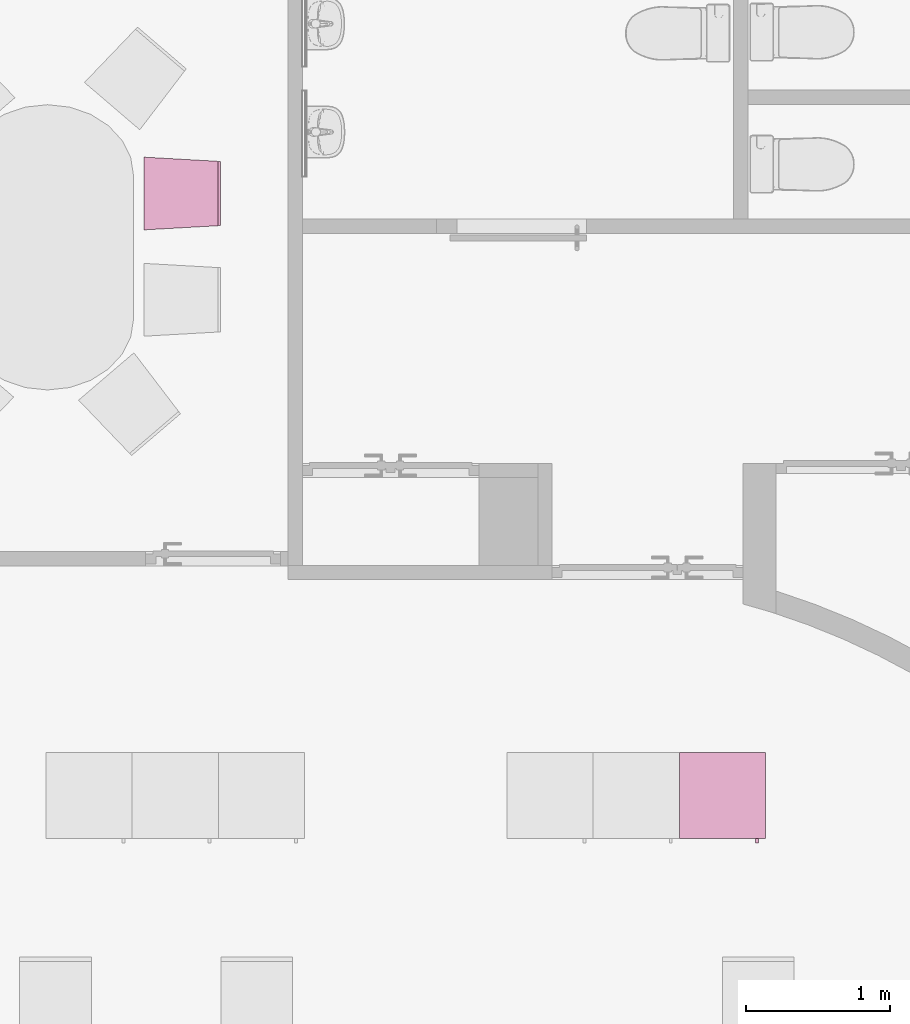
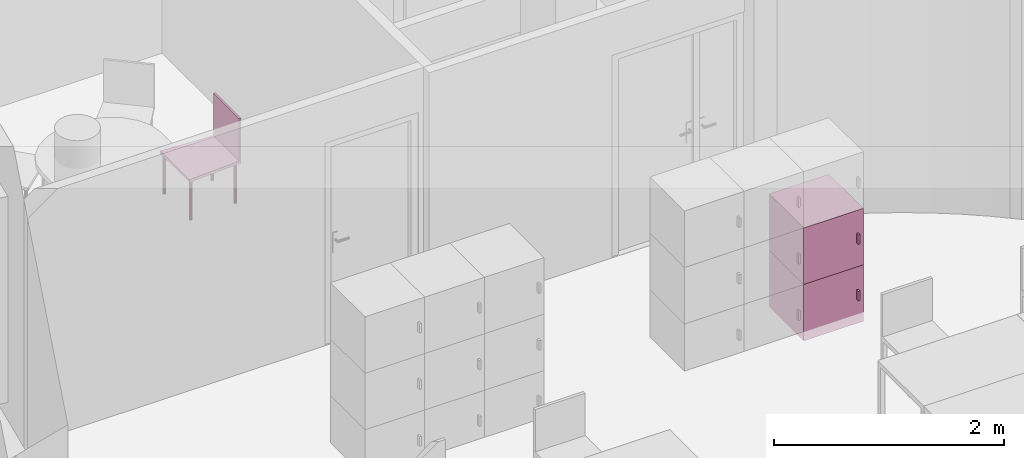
"""IFC4 building model written with IfcOpenShell, lengths in metres."""

from ifc_helpers import new_model, entity, si_unit, converted_unit, derived_unit, frame, origin, place, context, subcontext, project, spatial, faceted_brep, element, save


model = new_model("IFC4")

# Units and contexts
model_context = context("Model", 3, precision=1e-05, world=origin())
body_context = subcontext(model_context, "Body", "Model", "MODEL_VIEW")
ifc_project = project(units=[si_unit("LENGTHUNIT", "METRE"), si_unit("AREAUNIT", "SQUARE_METRE"), si_unit("VOLUMEUNIT", "CUBIC_METRE"), si_unit("MASSUNIT", "GRAM", prefix="KILO"), converted_unit("PLANEANGLEUNIT", "DEGREE", entity("IfcPlaneAngleMeasure", 0.0174532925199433), si_unit("PLANEANGLEUNIT", "RADIAN"), dimensions=[0, 0, 0, 0, 0, 0, 0]), derived_unit("THERMALTRANSMITTANCEUNIT", [(si_unit("POWERUNIT", "WATT"), 1), (si_unit("THERMODYNAMICTEMPERATUREUNIT", "KELVIN"), -1), (si_unit("LENGTHUNIT", "METRE"), -2)]), derived_unit("VOLUMETRICFLOWRATEUNIT", [(si_unit("LENGTHUNIT", "METRE"), 3), (converted_unit("TIMEUNIT", "hour", entity("IfcTimeMeasure", 3600.0), si_unit("TIMEUNIT", "SECOND"), dimensions=[0, 0, 1, 0, 0, 0, 0]), -1), (si_unit("LENGTHUNIT", "METRE"), -1)])], contexts=[model_context])

# Building, storeys
building_placement = place(None, origin())
building = spatial("IfcBuilding", under=ifc_project, at=building_placement, Name="HABITATGE PLURIFAMILIAR", CompositionType="ELEMENT")
storey_1_placement = place(building_placement, frame((0.0, 0.0, 15.28)))
storey_1 = spatial("IfcBuildingStorey", under=building, at=storey_1_placement, Name="PLANTA QUARTA", CompositionType="ELEMENT", Elevation=15.28)
storey_2_placement = place(storey_1_placement, frame((0.0, 0.0, 12.27)))
storey_2 = spatial("IfcBuildingStorey", under=storey_1, at=storey_2_placement, Name="NOU", CompositionType="PARTIAL")

# Furniture
furniture_1_placement = place(storey_2_placement, frame((407.062081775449, 21.5873137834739, -12.37)))
element("IfcFurniture", 1, at=furniture_1_placement, inside=storey_2, Name="Armai 60x60x60_P4", context=body_context, shape_type="Brep", body=[
    faceted_brep([(0.600000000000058, 0.0300000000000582, 0.02), (0.600000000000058, 0.0300000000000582, 0.0), (0.0, 0.0300000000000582, 0.0), (0.0, 0.0300000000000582, 0.02), (0.0, 0.630000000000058, 0.0), (0.0, 0.630000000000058, 0.02), (0.600000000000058, 0.630000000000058, 0.0), (0.600000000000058, 0.630000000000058, 0.02)], [[[0, 1, 2, 3]], [[3, 2, 4, 5]], [[5, 4, 6, 7]], [[7, 6, 1, 0]], [[0, 3, 5, 7]], [[1, 6, 4, 2]]], orient=[[False], [False], [False], [False], [False], [False]]),
    faceted_brep([(0.02, 0.63, 0.58), (0.02, 0.61, 0.58), (0.02, 0.61, 0.02), (0.02, 0.63, 0.02), (0.58, 0.61, 0.02), (0.58, 0.63, 0.02), (0.58, 0.61, 0.58), (0.58, 0.63, 0.58)], [[[0, 1, 2, 3]], [[3, 2, 4, 5]], [[5, 4, 6, 7]], [[7, 6, 1, 0]], [[0, 3, 5, 7]], [[1, 6, 4, 2]]], orient=[[False], [False], [False], [False], [False], [False]]),
    faceted_brep([(0.58, 0.0300000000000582, 0.58), (0.6, 0.0300000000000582, 0.58), (0.6, 0.0300000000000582, 0.02), (0.58, 0.0300000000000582, 0.02), (0.6, 0.630000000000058, 0.02), (0.58, 0.630000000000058, 0.02), (0.6, 0.630000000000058, 0.58), (0.58, 0.630000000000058, 0.58)], [[[0, 1, 2, 3]], [[3, 2, 4, 5]], [[5, 4, 6, 7]], [[7, 6, 1, 0]], [[0, 3, 5, 7]], [[1, 6, 4, 2]]], orient=[[False], [False], [False], [False], [False], [False]]),
    faceted_brep([(0.600000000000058, 0.0500000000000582, 0.58), (0.600000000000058, 0.0300000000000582, 0.58), (0.600000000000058, 0.0300000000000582, 0.02), (0.600000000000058, 0.0500000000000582, 0.02), (0.580000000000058, 0.0300000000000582, 0.02), (0.580000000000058, 0.0500000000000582, 0.02), (0.580000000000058, 0.0300000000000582, 0.58), (0.580000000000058, 0.0500000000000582, 0.58)], [[[0, 1, 2, 3]], [[3, 2, 4, 5]], [[5, 4, 6, 7]], [[7, 6, 1, 0]], [[0, 3, 5, 7]], [[1, 6, 4, 2]]], orient=[[False], [False], [False], [False], [False], [False]]),
    faceted_brep([(0.0, 0.0300000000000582, 0.58), (0.0200000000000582, 0.0300000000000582, 0.58), (0.0200000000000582, 0.0300000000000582, 0.02), (0.0, 0.0300000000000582, 0.02), (0.0200000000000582, 0.630000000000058, 0.02), (0.0, 0.630000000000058, 0.02), (0.0200000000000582, 0.630000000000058, 0.58), (0.0, 0.630000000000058, 0.58)], [[[0, 1, 2, 3]], [[3, 2, 4, 5]], [[5, 4, 6, 7]], [[7, 6, 1, 0]], [[0, 3, 5, 7]], [[1, 6, 4, 2]]], orient=[[False], [False], [False], [False], [False], [False]]),
    faceted_brep([(0.6, 0.03, 0.6), (0.6, 0.03, 0.58), (0.0, 0.03, 0.58), (0.0, 0.03, 0.6), (0.0, 0.63, 0.58), (0.0, 0.63, 0.6), (0.6, 0.63, 0.58), (0.6, 0.63, 0.6)], [[[0, 1, 2, 3]], [[3, 2, 4, 5]], [[5, 4, 6, 7]], [[7, 6, 1, 0]], [[0, 3, 5, 7]], [[1, 6, 4, 2]]], orient=[[False], [False], [False], [False], [False], [False]]),
    faceted_brep([(0.02, 0.05, 0.58), (0.02, 0.03, 0.58), (0.02, 0.03, 0.02), (0.02, 0.05, 0.02), (0.580000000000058, 0.03, 0.02), (0.580000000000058, 0.05, 0.02), (0.580000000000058, 0.03, 0.58), (0.580000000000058, 0.05, 0.58)], [[[0, 1, 2, 3]], [[3, 2, 4, 5]], [[5, 4, 6, 7]], [[7, 6, 1, 0]], [[0, 3, 5, 7]], [[1, 6, 4, 2]]], orient=[[False], [False], [False], [False], [False], [False]]),
    faceted_brep([(0.53, 0.03, 0.358064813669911), (0.53, 0.0, 0.358064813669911), (0.53, 0.0, 0.258064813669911), (0.53, 0.03, 0.258064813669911), (0.55, 0.0, 0.258064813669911), (0.55, 0.03, 0.258064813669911), (0.55, 0.0, 0.358064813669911), (0.55, 0.03, 0.358064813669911)], [[[0, 1, 2, 3]], [[3, 2, 4, 5]], [[5, 4, 6, 7]], [[7, 6, 1, 0]], [[0, 3, 5, 7]], [[1, 6, 4, 2]]], orient=[[False], [False], [False], [False], [False], [False]]),
])
furniture_2_placement = place(storey_2_placement, frame((407.062081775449, 21.5873137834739, -11.77)))
element("IfcFurniture", 2, at=furniture_2_placement, inside=storey_2, Name="Armai 60x60x60_P4", context=body_context, shape_type="Brep", body=[
    faceted_brep([(0.600000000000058, 0.0300000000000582, 0.02), (0.600000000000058, 0.0300000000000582, 0.0), (0.0, 0.0300000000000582, 0.0), (0.0, 0.0300000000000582, 0.02), (0.0, 0.630000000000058, 0.0), (0.0, 0.630000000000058, 0.02), (0.600000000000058, 0.630000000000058, 0.0), (0.600000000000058, 0.630000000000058, 0.02)], [[[0, 1, 2, 3]], [[3, 2, 4, 5]], [[5, 4, 6, 7]], [[7, 6, 1, 0]], [[0, 3, 5, 7]], [[1, 6, 4, 2]]], orient=[[False], [False], [False], [False], [False], [False]]),
    faceted_brep([(0.02, 0.63, 0.58), (0.02, 0.61, 0.58), (0.02, 0.61, 0.02), (0.02, 0.63, 0.02), (0.58, 0.61, 0.02), (0.58, 0.63, 0.02), (0.58, 0.61, 0.58), (0.58, 0.63, 0.58)], [[[0, 1, 2, 3]], [[3, 2, 4, 5]], [[5, 4, 6, 7]], [[7, 6, 1, 0]], [[0, 3, 5, 7]], [[1, 6, 4, 2]]], orient=[[False], [False], [False], [False], [False], [False]]),
    faceted_brep([(0.58, 0.0300000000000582, 0.58), (0.6, 0.0300000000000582, 0.58), (0.6, 0.0300000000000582, 0.02), (0.58, 0.0300000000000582, 0.02), (0.6, 0.630000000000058, 0.02), (0.58, 0.630000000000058, 0.02), (0.6, 0.630000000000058, 0.58), (0.58, 0.630000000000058, 0.58)], [[[0, 1, 2, 3]], [[3, 2, 4, 5]], [[5, 4, 6, 7]], [[7, 6, 1, 0]], [[0, 3, 5, 7]], [[1, 6, 4, 2]]], orient=[[False], [False], [False], [False], [False], [False]]),
    faceted_brep([(0.600000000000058, 0.0500000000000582, 0.58), (0.600000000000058, 0.0300000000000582, 0.58), (0.600000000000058, 0.0300000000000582, 0.02), (0.600000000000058, 0.0500000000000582, 0.02), (0.580000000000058, 0.0300000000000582, 0.02), (0.580000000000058, 0.0500000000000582, 0.02), (0.580000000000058, 0.0300000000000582, 0.58), (0.580000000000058, 0.0500000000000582, 0.58)], [[[0, 1, 2, 3]], [[3, 2, 4, 5]], [[5, 4, 6, 7]], [[7, 6, 1, 0]], [[0, 3, 5, 7]], [[1, 6, 4, 2]]], orient=[[False], [False], [False], [False], [False], [False]]),
    faceted_brep([(0.0, 0.0300000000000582, 0.58), (0.0200000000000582, 0.0300000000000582, 0.58), (0.0200000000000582, 0.0300000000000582, 0.02), (0.0, 0.0300000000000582, 0.02), (0.0200000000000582, 0.630000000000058, 0.02), (0.0, 0.630000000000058, 0.02), (0.0200000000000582, 0.630000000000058, 0.58), (0.0, 0.630000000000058, 0.58)], [[[0, 1, 2, 3]], [[3, 2, 4, 5]], [[5, 4, 6, 7]], [[7, 6, 1, 0]], [[0, 3, 5, 7]], [[1, 6, 4, 2]]], orient=[[False], [False], [False], [False], [False], [False]]),
    faceted_brep([(0.6, 0.03, 0.6), (0.6, 0.03, 0.58), (0.0, 0.03, 0.58), (0.0, 0.03, 0.6), (0.0, 0.63, 0.58), (0.0, 0.63, 0.6), (0.6, 0.63, 0.58), (0.6, 0.63, 0.6)], [[[0, 1, 2, 3]], [[3, 2, 4, 5]], [[5, 4, 6, 7]], [[7, 6, 1, 0]], [[0, 3, 5, 7]], [[1, 6, 4, 2]]], orient=[[False], [False], [False], [False], [False], [False]]),
    faceted_brep([(0.02, 0.05, 0.58), (0.02, 0.03, 0.58), (0.02, 0.03, 0.02), (0.02, 0.05, 0.02), (0.580000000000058, 0.03, 0.02), (0.580000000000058, 0.05, 0.02), (0.580000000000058, 0.03, 0.58), (0.580000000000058, 0.05, 0.58)], [[[0, 1, 2, 3]], [[3, 2, 4, 5]], [[5, 4, 6, 7]], [[7, 6, 1, 0]], [[0, 3, 5, 7]], [[1, 6, 4, 2]]], orient=[[False], [False], [False], [False], [False], [False]]),
    faceted_brep([(0.53, 0.03, 0.358064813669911), (0.53, 0.0, 0.358064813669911), (0.53, 0.0, 0.258064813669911), (0.53, 0.03, 0.258064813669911), (0.55, 0.0, 0.258064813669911), (0.55, 0.03, 0.258064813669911), (0.55, 0.0, 0.358064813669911), (0.55, 0.03, 0.358064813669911)], [[[0, 1, 2, 3]], [[3, 2, 4, 5]], [[5, 4, 6, 7]], [[7, 6, 1, 0]], [[0, 3, 5, 7]], [[1, 6, 4, 2]]], orient=[[False], [False], [False], [False], [False], [False]]),
])
furniture_3_placement = place(storey_2_placement, frame((403.336646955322, 25.8551308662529, -12.37)))
element("IfcFurniture", 3, at=furniture_3_placement, inside=storey_2, Name="Cadira confident_P4", context=body_context, shape_type="Brep", body=[
    faceted_brep([(0.010159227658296, 0.0242257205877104, 0.0), (0.0103861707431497, 0.0216317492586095, 0.0), (0.0110601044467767, 0.0191165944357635, 0.0), (0.0121605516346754, 0.0167566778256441, 0.0), (0.0136540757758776, 0.0146237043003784, 0.0), (0.0154952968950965, 0.0127824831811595, 0.0), (0.0176282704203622, 0.0112889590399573, 0.0), (0.0199881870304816, 0.0101885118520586, 0.0), (0.0225033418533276, 0.00951457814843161, 0.0), (0.0250973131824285, 0.00928763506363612, 0.0), (0.0276912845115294, 0.00951457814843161, 0.0), (0.0302064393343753, 0.0101885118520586, 0.0), (0.0325663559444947, 0.0112889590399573, 0.0), (0.0346993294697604, 0.0127824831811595, 0.0), (0.0365405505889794, 0.0146237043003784, 0.0), (0.0380340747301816, 0.0167566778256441, 0.0), (0.0391345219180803, 0.0191165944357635, 0.0), (0.0398084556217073, 0.0216317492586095, 0.0), (0.040035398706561, 0.0242257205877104, 0.0), (0.0398084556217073, 0.0268196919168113, 0.0), (0.0391345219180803, 0.0293348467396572, 0.0), (0.0380340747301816, 0.0316947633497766, 0.0), (0.0365405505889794, 0.0338277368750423, 0.0), (0.0346993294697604, 0.0356689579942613, 0.0), (0.0325663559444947, 0.0371624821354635, 0.0), (0.0302064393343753, 0.0382629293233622, 0.0), (0.0276912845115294, 0.0389368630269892, 0.0), (0.0250973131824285, 0.0391638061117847, 0.0), (0.0225033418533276, 0.0389368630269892, 0.0), (0.0199881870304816, 0.0382629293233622, 0.0), (0.0176282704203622, 0.0371624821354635, 0.0), (0.0154952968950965, 0.0356689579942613, 0.0), (0.0136540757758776, 0.0338277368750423, 0.0), (0.0121605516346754, 0.0316947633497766, 0.0), (0.0110601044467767, 0.0293348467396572, 0.0), (0.0103861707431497, 0.0268196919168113, 0.0), (0.010159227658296, 0.0242257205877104, 0.448281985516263), (0.0103861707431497, 0.0268196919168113, 0.448281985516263), (0.0110601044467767, 0.0293348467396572, 0.448281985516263), (0.0121605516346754, 0.0316947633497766, 0.448281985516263), (0.0136540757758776, 0.0338277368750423, 0.448281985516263), (0.0154952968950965, 0.0356689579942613, 0.448281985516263), (0.0176282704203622, 0.0371624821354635, 0.448281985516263), (0.0199881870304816, 0.0382629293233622, 0.448281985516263), (0.0225033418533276, 0.0389368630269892, 0.448281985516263), (0.0250973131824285, 0.0391638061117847, 0.448281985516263), (0.0276912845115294, 0.0389368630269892, 0.448281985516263), (0.0302064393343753, 0.0382629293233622, 0.448281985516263), (0.0325663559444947, 0.0371624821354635, 0.448281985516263), (0.0346993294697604, 0.0356689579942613, 0.448281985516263), (0.0365405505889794, 0.0338277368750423, 0.448281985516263), (0.0380340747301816, 0.0316947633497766, 0.448281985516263), (0.0391345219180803, 0.0293348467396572, 0.448281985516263), (0.0398084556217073, 0.0268196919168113, 0.448281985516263), (0.040035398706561, 0.0242257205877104, 0.448281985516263), (0.0398084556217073, 0.0216317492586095, 0.448281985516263), (0.0391345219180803, 0.0191165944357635, 0.448281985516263), (0.0380340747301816, 0.0167566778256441, 0.448281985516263), (0.0365405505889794, 0.0146237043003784, 0.448281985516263), (0.0346993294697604, 0.0127824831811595, 0.448281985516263), (0.0325663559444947, 0.0112889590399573, 0.448281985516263), (0.0302064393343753, 0.0101885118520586, 0.448281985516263), (0.0276912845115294, 0.00951457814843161, 0.448281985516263), (0.0250973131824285, 0.00928763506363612, 0.448281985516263), (0.0225033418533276, 0.00951457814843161, 0.448281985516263), (0.0199881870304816, 0.0101885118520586, 0.448281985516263), (0.0176282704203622, 0.0112889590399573, 0.448281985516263), (0.0154952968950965, 0.0127824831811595, 0.448281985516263), (0.0136540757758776, 0.0146237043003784, 0.448281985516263), (0.0121605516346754, 0.0167566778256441, 0.448281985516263), (0.0110601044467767, 0.0191165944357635, 0.448281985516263), (0.0103861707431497, 0.0216317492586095, 0.448281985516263)], [[[0, 1, 2, 3, 4, 5, 6, 7, 8, 9, 10, 11, 12, 13, 14, 15, 16, 17, 18, 19, 20, 21, 22, 23, 24, 25, 26, 27, 28, 29, 30, 31, 32, 33, 34, 35]], [[36, 37, 38, 39, 40, 41, 42, 43, 44, 45, 46, 47, 48, 49, 50, 51, 52, 53, 54, 55, 56, 57, 58, 59, 60, 61, 62, 63, 64, 65, 66, 67, 68, 69, 70, 71]], [[35, 37, 36, 0]], [[34, 38, 37, 35]], [[33, 39, 38, 34]], [[32, 40, 39, 33]], [[31, 41, 40, 32]], [[30, 42, 41, 31]], [[29, 43, 42, 30]], [[28, 44, 43, 29]], [[27, 45, 44, 28]], [[26, 46, 45, 27]], [[25, 47, 46, 26]], [[24, 48, 47, 25]], [[23, 49, 48, 24]], [[22, 50, 49, 23]], [[21, 51, 50, 22]], [[20, 52, 51, 21]], [[19, 53, 52, 20]], [[18, 54, 53, 19]], [[17, 55, 54, 18]], [[16, 56, 55, 17]], [[15, 57, 56, 16]], [[14, 58, 57, 15]], [[13, 59, 58, 14]], [[12, 60, 59, 13]], [[11, 61, 60, 12]], [[10, 62, 61, 11]], [[9, 63, 62, 10]], [[8, 64, 63, 9]], [[7, 65, 64, 8]], [[6, 66, 65, 7]], [[5, 67, 66, 6]], [[4, 68, 67, 5]], [[3, 69, 68, 4]], [[2, 70, 69, 3]], [[1, 71, 70, 2]], [[0, 36, 71, 1]]], orient=[[False], [False], [False], [False], [False], [False], [False], [False], [False], [False], [False], [False], [False], [False], [False], [False], [False], [False], [False], [False], [False], [False], [False], [False], [False], [False], [False], [False], [False], [False], [False], [False], [False], [False], [False], [False], [False], [False]]),
    faceted_brep([(0.472566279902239, 0.0518637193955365, 0.0), (0.472793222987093, 0.0492697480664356, 0.0), (0.47346715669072, 0.0467545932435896, 0.0), (0.474567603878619, 0.0443946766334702, 0.0), (0.476061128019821, 0.0422617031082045, 0.0), (0.47790234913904, 0.0404204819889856, 0.0), (0.480035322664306, 0.0389269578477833, 0.0), (0.482395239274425, 0.0378265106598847, 0.0), (0.484910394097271, 0.0371525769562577, 0.0), (0.487504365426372, 0.0369256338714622, 0.0), (0.490098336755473, 0.0371525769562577, 0.0), (0.492613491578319, 0.0378265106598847, 0.0), (0.494973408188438, 0.0389269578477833, 0.0), (0.497106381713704, 0.0404204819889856, 0.0), (0.498947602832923, 0.0422617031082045, 0.0), (0.500441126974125, 0.0443946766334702, 0.0), (0.501541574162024, 0.0467545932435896, 0.0), (0.502215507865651, 0.0492697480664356, 0.0), (0.502442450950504, 0.0518637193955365, 0.0), (0.502215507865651, 0.0544576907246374, 0.0), (0.501541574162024, 0.0569728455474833, 0.0), (0.500441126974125, 0.0593327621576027, 0.0), (0.498947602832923, 0.0614657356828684, 0.0), (0.497106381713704, 0.0633069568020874, 0.0), (0.494973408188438, 0.0648004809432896, 0.0), (0.492613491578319, 0.0659009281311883, 0.0), (0.490098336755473, 0.0665748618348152, 0.0), (0.487504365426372, 0.0668018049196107, 0.0), (0.484910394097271, 0.0665748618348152, 0.0), (0.482395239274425, 0.0659009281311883, 0.0), (0.480035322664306, 0.0648004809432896, 0.0), (0.47790234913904, 0.0633069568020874, 0.0), (0.476061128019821, 0.0614657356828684, 0.0), (0.474567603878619, 0.0593327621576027, 0.0), (0.47346715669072, 0.0569728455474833, 0.0), (0.472793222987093, 0.0544576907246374, 0.0), (0.472566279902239, 0.0518637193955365, 0.448281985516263), (0.472793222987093, 0.0544576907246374, 0.448281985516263), (0.47346715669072, 0.0569728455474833, 0.448281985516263), (0.474567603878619, 0.0593327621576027, 0.448281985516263), (0.476061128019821, 0.0614657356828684, 0.448281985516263), (0.47790234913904, 0.0633069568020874, 0.448281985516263), (0.480035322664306, 0.0648004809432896, 0.448281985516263), (0.482395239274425, 0.0659009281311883, 0.448281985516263), (0.484910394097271, 0.0665748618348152, 0.448281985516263), (0.487504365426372, 0.0668018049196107, 0.448281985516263), (0.490098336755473, 0.0665748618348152, 0.448281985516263), (0.492613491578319, 0.0659009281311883, 0.448281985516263), (0.494973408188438, 0.0648004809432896, 0.448281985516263), (0.497106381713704, 0.0633069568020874, 0.448281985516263), (0.498947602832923, 0.0614657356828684, 0.448281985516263), (0.500441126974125, 0.0593327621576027, 0.448281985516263), (0.501541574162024, 0.0569728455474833, 0.448281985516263), (0.502215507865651, 0.0544576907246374, 0.448281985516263), (0.502442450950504, 0.0518637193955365, 0.448281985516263), (0.502215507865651, 0.0492697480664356, 0.448281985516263), (0.501541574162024, 0.0467545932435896, 0.448281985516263), (0.500441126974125, 0.0443946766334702, 0.448281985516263), (0.498947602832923, 0.0422617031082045, 0.448281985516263), (0.497106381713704, 0.0404204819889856, 0.448281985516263), (0.494973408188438, 0.0389269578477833, 0.448281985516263), (0.492613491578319, 0.0378265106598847, 0.448281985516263), (0.490098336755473, 0.0371525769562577, 0.448281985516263), (0.487504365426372, 0.0369256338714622, 0.448281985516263), (0.484910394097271, 0.0371525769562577, 0.448281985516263), (0.482395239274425, 0.0378265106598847, 0.448281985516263), (0.480035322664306, 0.0389269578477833, 0.448281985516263), (0.47790234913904, 0.0404204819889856, 0.448281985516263), (0.476061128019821, 0.0422617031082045, 0.448281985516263), (0.474567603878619, 0.0443946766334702, 0.448281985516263), (0.47346715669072, 0.0467545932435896, 0.448281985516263), (0.472793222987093, 0.0492697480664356, 0.448281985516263)], [[[0, 1, 2, 3, 4, 5, 6, 7, 8, 9, 10, 11, 12, 13, 14, 15, 16, 17, 18, 19, 20, 21, 22, 23, 24, 25, 26, 27, 28, 29, 30, 31, 32, 33, 34, 35]], [[36, 37, 38, 39, 40, 41, 42, 43, 44, 45, 46, 47, 48, 49, 50, 51, 52, 53, 54, 55, 56, 57, 58, 59, 60, 61, 62, 63, 64, 65, 66, 67, 68, 69, 70, 71]], [[35, 37, 36, 0]], [[34, 38, 37, 35]], [[33, 39, 38, 34]], [[32, 40, 39, 33]], [[31, 41, 40, 32]], [[30, 42, 41, 31]], [[29, 43, 42, 30]], [[28, 44, 43, 29]], [[27, 45, 44, 28]], [[26, 46, 45, 27]], [[25, 47, 46, 26]], [[24, 48, 47, 25]], [[23, 49, 48, 24]], [[22, 50, 49, 23]], [[21, 51, 50, 22]], [[20, 52, 51, 21]], [[19, 53, 52, 20]], [[18, 54, 53, 19]], [[17, 55, 54, 18]], [[16, 56, 55, 17]], [[15, 57, 56, 16]], [[14, 58, 57, 15]], [[13, 59, 58, 14]], [[12, 60, 59, 13]], [[11, 61, 60, 12]], [[10, 62, 61, 11]], [[9, 63, 62, 10]], [[8, 64, 63, 9]], [[7, 65, 64, 8]], [[6, 66, 65, 7]], [[5, 67, 66, 6]], [[4, 68, 67, 5]], [[3, 69, 68, 4]], [[2, 70, 69, 3]], [[1, 71, 70, 2]], [[0, 36, 71, 1]]], orient=[[False], [False], [False], [False], [False], [False], [False], [False], [False], [False], [False], [False], [False], [False], [False], [False], [False], [False], [False], [False], [False], [False], [False], [False], [False], [False], [False], [False], [False], [False], [False], [False], [False], [False], [False], [False], [False], [False]]),
    faceted_brep([(0.0101592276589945, 0.484225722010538, 0.0), (0.0103861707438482, 0.481631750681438, 0.0), (0.0110601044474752, 0.479116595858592, 0.0), (0.0121605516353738, 0.476756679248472, 0.0), (0.0136540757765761, 0.474623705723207, 0.0), (0.015495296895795, 0.472782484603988, 0.0), (0.0176282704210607, 0.471288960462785, 0.0), (0.0199881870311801, 0.470188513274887, 0.0), (0.0225033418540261, 0.46951457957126, 0.0), (0.025097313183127, 0.469287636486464, 0.0), (0.0276912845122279, 0.46951457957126, 0.0), (0.0302064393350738, 0.470188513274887, 0.0), (0.0325663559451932, 0.471288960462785, 0.0), (0.0346993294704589, 0.472782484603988, 0.0), (0.0365405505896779, 0.474623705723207, 0.0), (0.0380340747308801, 0.476756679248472, 0.0), (0.0391345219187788, 0.479116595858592, 0.0), (0.0398084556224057, 0.481631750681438, 0.0), (0.0400353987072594, 0.484225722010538, 0.0), (0.0398084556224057, 0.486819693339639, 0.0), (0.0391345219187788, 0.489334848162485, 0.0), (0.0380340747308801, 0.491694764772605, 0.0), (0.0365405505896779, 0.49382773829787, 0.0), (0.0346993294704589, 0.495668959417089, 0.0), (0.0325663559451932, 0.497162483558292, 0.0), (0.0302064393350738, 0.49826293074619, 0.0), (0.0276912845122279, 0.498936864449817, 0.0), (0.025097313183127, 0.499163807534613, 0.0), (0.0225033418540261, 0.498936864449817, 0.0), (0.0199881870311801, 0.49826293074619, 0.0), (0.0176282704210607, 0.497162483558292, 0.0), (0.015495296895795, 0.495668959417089, 0.0), (0.0136540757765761, 0.49382773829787, 0.0), (0.0121605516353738, 0.491694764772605, 0.0), (0.0110601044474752, 0.489334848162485, 0.0), (0.0103861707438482, 0.486819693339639, 0.0), (0.0101592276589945, 0.484225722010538, 0.448281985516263), (0.0103861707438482, 0.486819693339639, 0.448281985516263), (0.0110601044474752, 0.489334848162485, 0.448281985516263), (0.0121605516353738, 0.491694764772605, 0.448281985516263), (0.0136540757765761, 0.49382773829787, 0.448281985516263), (0.015495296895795, 0.495668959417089, 0.448281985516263), (0.0176282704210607, 0.497162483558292, 0.448281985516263), (0.0199881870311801, 0.49826293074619, 0.448281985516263), (0.0225033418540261, 0.498936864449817, 0.448281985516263), (0.025097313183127, 0.499163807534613, 0.448281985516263), (0.0276912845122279, 0.498936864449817, 0.448281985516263), (0.0302064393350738, 0.49826293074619, 0.448281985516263), (0.0325663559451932, 0.497162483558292, 0.448281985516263), (0.0346993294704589, 0.495668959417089, 0.448281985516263), (0.0365405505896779, 0.49382773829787, 0.448281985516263), (0.0380340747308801, 0.491694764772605, 0.448281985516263), (0.0391345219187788, 0.489334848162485, 0.448281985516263), (0.0398084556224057, 0.486819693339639, 0.448281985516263), (0.0400353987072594, 0.484225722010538, 0.448281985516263), (0.0398084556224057, 0.481631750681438, 0.448281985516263), (0.0391345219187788, 0.479116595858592, 0.448281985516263), (0.0380340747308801, 0.476756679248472, 0.448281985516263), (0.0365405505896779, 0.474623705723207, 0.448281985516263), (0.0346993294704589, 0.472782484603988, 0.448281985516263), (0.0325663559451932, 0.471288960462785, 0.448281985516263), (0.0302064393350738, 0.470188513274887, 0.448281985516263), (0.0276912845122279, 0.46951457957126, 0.448281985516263), (0.025097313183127, 0.469287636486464, 0.448281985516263), (0.0225033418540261, 0.46951457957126, 0.448281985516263), (0.0199881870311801, 0.470188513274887, 0.448281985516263), (0.0176282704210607, 0.471288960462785, 0.448281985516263), (0.015495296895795, 0.472782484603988, 0.448281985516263), (0.0136540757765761, 0.474623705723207, 0.448281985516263), (0.0121605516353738, 0.476756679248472, 0.448281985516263), (0.0110601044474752, 0.479116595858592, 0.448281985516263), (0.0103861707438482, 0.481631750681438, 0.448281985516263)], [[[0, 1, 2, 3, 4, 5, 6, 7, 8, 9, 10, 11, 12, 13, 14, 15, 16, 17, 18, 19, 20, 21, 22, 23, 24, 25, 26, 27, 28, 29, 30, 31, 32, 33, 34, 35]], [[36, 37, 38, 39, 40, 41, 42, 43, 44, 45, 46, 47, 48, 49, 50, 51, 52, 53, 54, 55, 56, 57, 58, 59, 60, 61, 62, 63, 64, 65, 66, 67, 68, 69, 70, 71]], [[35, 37, 36, 0]], [[34, 38, 37, 35]], [[33, 39, 38, 34]], [[32, 40, 39, 33]], [[31, 41, 40, 32]], [[30, 42, 41, 31]], [[29, 43, 42, 30]], [[28, 44, 43, 29]], [[27, 45, 44, 28]], [[26, 46, 45, 27]], [[25, 47, 46, 26]], [[24, 48, 47, 25]], [[23, 49, 48, 24]], [[22, 50, 49, 23]], [[21, 51, 50, 22]], [[20, 52, 51, 21]], [[19, 53, 52, 20]], [[18, 54, 53, 19]], [[17, 55, 54, 18]], [[16, 56, 55, 17]], [[15, 57, 56, 16]], [[14, 58, 57, 15]], [[13, 59, 58, 14]], [[12, 60, 59, 13]], [[11, 61, 60, 12]], [[10, 62, 61, 11]], [[9, 63, 62, 10]], [[8, 64, 63, 9]], [[7, 65, 64, 8]], [[6, 66, 65, 7]], [[5, 67, 66, 6]], [[4, 68, 67, 5]], [[3, 69, 68, 4]], [[2, 70, 69, 3]], [[1, 71, 70, 2]], [[0, 36, 71, 1]]], orient=[[False], [False], [False], [False], [False], [False], [False], [False], [False], [False], [False], [False], [False], [False], [False], [False], [False], [False], [False], [False], [False], [False], [False], [False], [False], [False], [False], [False], [False], [False], [False], [False], [False], [False], [False], [False], [False], [False]]),
    faceted_brep([(0.472566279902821, 0.451863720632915, 0.0), (0.472793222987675, 0.449269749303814, 0.0), (0.473467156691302, 0.446754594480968, 0.0), (0.474567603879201, 0.444394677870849, 0.0), (0.476061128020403, 0.442261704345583, 0.0), (0.477902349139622, 0.440420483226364, 0.0), (0.480035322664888, 0.438926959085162, 0.0), (0.482395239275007, 0.437826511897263, 0.0), (0.484910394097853, 0.437152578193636, 0.0), (0.487504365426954, 0.436925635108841, 0.0), (0.490098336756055, 0.437152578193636, 0.0), (0.492613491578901, 0.437826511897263, 0.0), (0.49497340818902, 0.438926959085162, 0.0), (0.497106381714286, 0.440420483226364, 0.0), (0.498947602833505, 0.442261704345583, 0.0), (0.500441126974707, 0.444394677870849, 0.0), (0.501541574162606, 0.446754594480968, 0.0), (0.502215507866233, 0.449269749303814, 0.0), (0.502442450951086, 0.451863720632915, 0.0), (0.502215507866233, 0.454457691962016, 0.0), (0.501541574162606, 0.456972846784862, 0.0), (0.500441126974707, 0.459332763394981, 0.0), (0.498947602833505, 0.461465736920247, 0.0), (0.497106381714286, 0.463306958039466, 0.0), (0.49497340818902, 0.464800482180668, 0.0), (0.492613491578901, 0.465900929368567, 0.0), (0.490098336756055, 0.466574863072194, 0.0), (0.487504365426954, 0.466801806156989, 0.0), (0.484910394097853, 0.466574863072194, 0.0), (0.482395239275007, 0.465900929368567, 0.0), (0.480035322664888, 0.464800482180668, 0.0), (0.477902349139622, 0.463306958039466, 0.0), (0.476061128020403, 0.461465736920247, 0.0), (0.474567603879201, 0.459332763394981, 0.0), (0.473467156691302, 0.456972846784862, 0.0), (0.472793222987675, 0.454457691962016, 0.0), (0.472566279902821, 0.451863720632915, 0.448281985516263), (0.472793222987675, 0.454457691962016, 0.448281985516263), (0.473467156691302, 0.456972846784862, 0.448281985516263), (0.474567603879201, 0.459332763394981, 0.448281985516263), (0.476061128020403, 0.461465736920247, 0.448281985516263), (0.477902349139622, 0.463306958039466, 0.448281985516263), (0.480035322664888, 0.464800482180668, 0.448281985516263), (0.482395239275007, 0.465900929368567, 0.448281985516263), (0.484910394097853, 0.466574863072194, 0.448281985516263), (0.487504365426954, 0.466801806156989, 0.448281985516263), (0.490098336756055, 0.466574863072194, 0.448281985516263), (0.492613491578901, 0.465900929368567, 0.448281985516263), (0.49497340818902, 0.464800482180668, 0.448281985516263), (0.497106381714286, 0.463306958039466, 0.448281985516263), (0.498947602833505, 0.461465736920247, 0.448281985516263), (0.500441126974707, 0.459332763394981, 0.448281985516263), (0.501541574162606, 0.456972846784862, 0.448281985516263), (0.502215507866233, 0.454457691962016, 0.448281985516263), (0.502442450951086, 0.451863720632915, 0.448281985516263), (0.502215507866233, 0.449269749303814, 0.448281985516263), (0.501541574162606, 0.446754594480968, 0.448281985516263), (0.500441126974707, 0.444394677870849, 0.448281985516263), (0.498947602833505, 0.442261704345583, 0.448281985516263), (0.497106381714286, 0.440420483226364, 0.448281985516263), (0.49497340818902, 0.438926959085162, 0.448281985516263), (0.492613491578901, 0.437826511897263, 0.448281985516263), (0.490098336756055, 0.437152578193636, 0.448281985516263), (0.487504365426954, 0.436925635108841, 0.448281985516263), (0.484910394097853, 0.437152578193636, 0.448281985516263), (0.482395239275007, 0.437826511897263, 0.448281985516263), (0.480035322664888, 0.438926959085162, 0.448281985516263), (0.477902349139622, 0.440420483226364, 0.448281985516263), (0.476061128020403, 0.442261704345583, 0.448281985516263), (0.474567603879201, 0.444394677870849, 0.448281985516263), (0.473467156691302, 0.446754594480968, 0.448281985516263), (0.472793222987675, 0.449269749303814, 0.448281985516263)], [[[0, 1, 2, 3, 4, 5, 6, 7, 8, 9, 10, 11, 12, 13, 14, 15, 16, 17, 18, 19, 20, 21, 22, 23, 24, 25, 26, 27, 28, 29, 30, 31, 32, 33, 34, 35]], [[36, 37, 38, 39, 40, 41, 42, 43, 44, 45, 46, 47, 48, 49, 50, 51, 52, 53, 54, 55, 56, 57, 58, 59, 60, 61, 62, 63, 64, 65, 66, 67, 68, 69, 70, 71]], [[35, 37, 36, 0]], [[34, 38, 37, 35]], [[33, 39, 38, 34]], [[32, 40, 39, 33]], [[31, 41, 40, 32]], [[30, 42, 41, 31]], [[29, 43, 42, 30]], [[28, 44, 43, 29]], [[27, 45, 44, 28]], [[26, 46, 45, 27]], [[25, 47, 46, 26]], [[24, 48, 47, 25]], [[23, 49, 48, 24]], [[22, 50, 49, 23]], [[21, 51, 50, 22]], [[20, 52, 51, 21]], [[19, 53, 52, 20]], [[18, 54, 53, 19]], [[17, 55, 54, 18]], [[16, 56, 55, 17]], [[15, 57, 56, 16]], [[14, 58, 57, 15]], [[13, 59, 58, 14]], [[12, 60, 59, 13]], [[11, 61, 60, 12]], [[10, 62, 61, 11]], [[9, 63, 62, 10]], [[8, 64, 63, 9]], [[7, 65, 64, 8]], [[6, 66, 65, 7]], [[5, 67, 66, 6]], [[4, 68, 67, 5]], [[3, 69, 68, 4]], [[2, 70, 69, 3]], [[1, 71, 70, 2]], [[0, 36, 71, 1]]], orient=[[False], [False], [False], [False], [False], [False], [False], [False], [False], [False], [False], [False], [False], [False], [False], [False], [False], [False], [False], [False], [False], [False], [False], [False], [False], [False], [False], [False], [False], [False], [False], [False], [False], [False], [False], [False], [False], [False]]),
    faceted_brep([(0.532607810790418, 0.476514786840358, 0.418281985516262), (0.0, 0.506514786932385, 0.418281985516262), (0.0, 0.0, 0.418281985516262), (0.532607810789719, 0.0300000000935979, 0.418281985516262), (0.0, 0.506514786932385, 0.448281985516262), (0.532607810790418, 0.476514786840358, 0.448281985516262), (0.532607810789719, 0.0300000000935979, 0.448281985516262), (0.0, 0.0, 0.448281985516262)], [[[0, 1, 2, 3]], [[4, 5, 6, 7]], [[1, 0, 5, 4]], [[2, 1, 4, 7]], [[3, 2, 7, 6]], [[0, 3, 6, 5]]], orient=[[False], [False], [False], [False], [False], [False]]),
    faceted_brep([(0.512607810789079, 0.476514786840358, 0.448281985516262), (0.51260781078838, 0.0300000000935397, 0.448281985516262), (0.532607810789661, 0.0300000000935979, 0.448281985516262), (0.53260781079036, 0.476514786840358, 0.448281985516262), (0.51260781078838, 0.0300000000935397, 0.89828198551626), (0.512607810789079, 0.476514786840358, 0.89828198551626), (0.53260781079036, 0.476514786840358, 0.89828198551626), (0.532607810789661, 0.0300000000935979, 0.89828198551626)], [[[0, 1, 2, 3]], [[4, 5, 6, 7]], [[1, 0, 5, 4]], [[2, 1, 4, 7]], [[3, 2, 7, 6]], [[0, 3, 6, 5]]], orient=[[False], [False], [False], [False], [False], [False]]),
])

save(model, "model.ifc")
